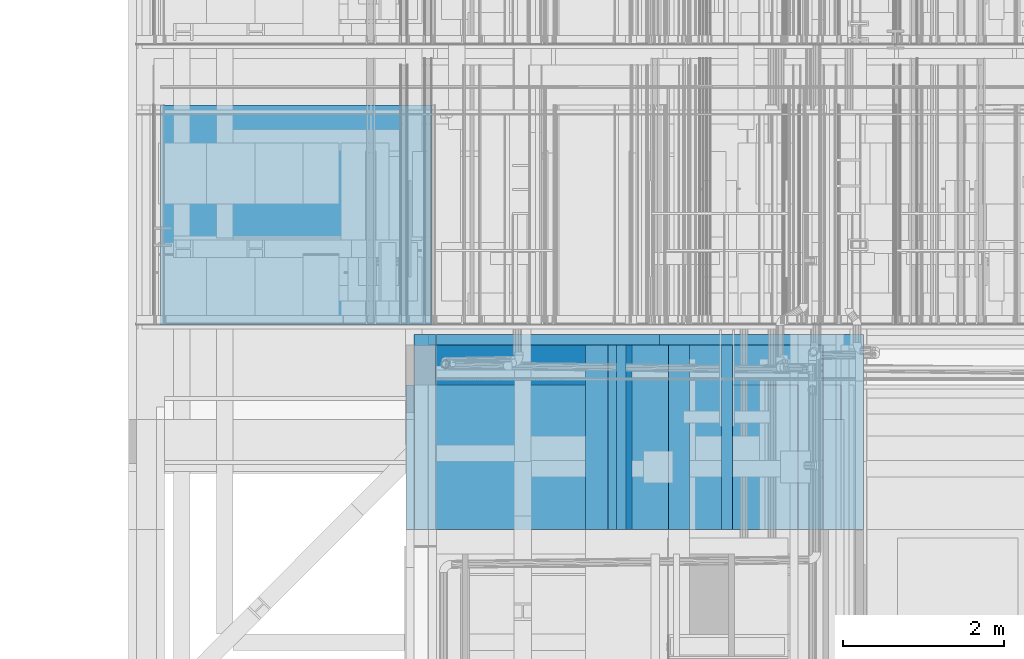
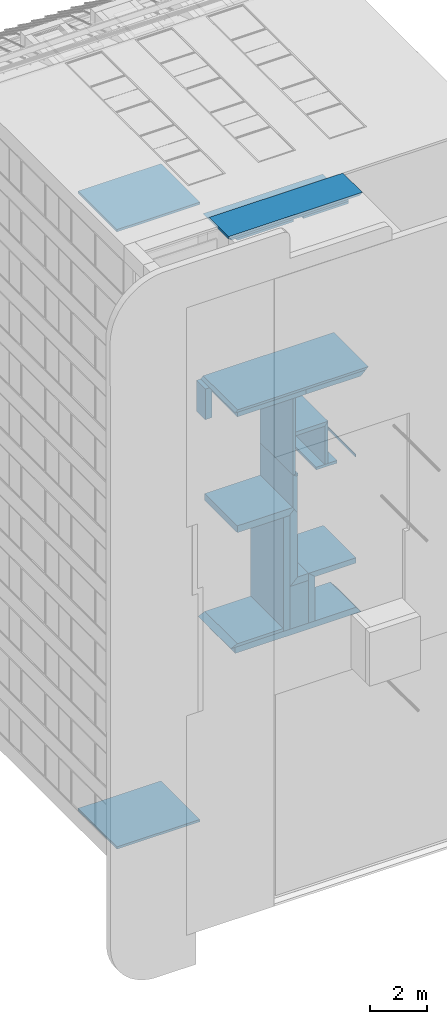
# One storey, part 10 of 583: 24 walls, 2 openings.
"""IFC2X3 building model written with IfcOpenShell, lengths in metres."""

import ifcopenshell
import ifcopenshell.guid

model = None  # the IFC model being written
_history = None  # IfcOwnerHistory: only IFC2X3 demands one
_inside = {}  # id of a spatial element -> (the spatial element, [elements in it])
_under = {}  # id of a project, library or spatial element -> (it, [spatial elements below it])
_declared = {}  # id of a project -> (the project, [libraries it declares])
_typed = {}  # id of a type object -> (the type object, [elements of that type])
_made_of = {}  # id of a material, layer set ... -> (it, [elements and type objects made of it])


def new_model(schema):
    """Start an empty IFC model of exactly this schema.

    Asked for "IFC4X3", IfcOpenShell would pick the latest addendum, in which some entities
    have other attributes; the version numbers below select the first issue.
    IFC2X3 requires an IfcOwnerHistory on every rooted entity: one is made here for all.
    """
    global model, _history
    if schema == "IFC4X3":
        model = ifcopenshell.file(schema_version=(4, 3, 0, 0))
    else:
        model = ifcopenshell.file(schema=schema)
    _inside.clear()
    _under.clear()
    _declared.clear()
    _typed.clear()
    _made_of.clear()
    _history = None
    if model.schema == "IFC2X3":
        org = make("IfcOrganization", Name="unknown")
        user = make(
            "IfcPersonAndOrganization",
            ThePerson=make("IfcPerson", FamilyName="unknown"),
            TheOrganization=org,
        )
        app = make(
            "IfcApplication",
            ApplicationDeveloper=org,
            Version="unknown",
            ApplicationFullName="unknown",
            ApplicationIdentifier="unknown",
        )
        _history = make(
            "IfcOwnerHistory",
            OwningUser=user,
            OwningApplication=app,
            ChangeAction="ADDED",
            CreationDate=0,
        )
    return model


def make(cls, **values):
    """One entity of the class cls with the attributes given. An attribute that is None is left unset."""
    return model.create_entity(
        cls, **{name: value for name, value in values.items() if value is not None}
    )


def entity(cls, *values):
    """Any entity or typed value of the class cls, its attributes in the order of the schema. None: left unset."""
    e = model.create_entity(cls)
    for i, value in enumerate(values):
        if value is not None:
            e[i] = value
    return e


def rooted(cls, **values):
    """An entity with a GlobalId (a new one), such as an element, a storey or a relation."""
    return make(cls, GlobalId=ifcopenshell.guid.new(), OwnerHistory=_history, **values)


def si_unit(unit_type, name, prefix=None):
    """IfcSIUnit, for example si_unit("LENGTHUNIT", "METRE", prefix="MILLI")."""
    return make("IfcSIUnit", UnitType=unit_type, Prefix=prefix, Name=name)


def converted_unit(unit_type, name, factor, base, dimensions=None, offset=None):
    """IfcConversionBasedUnit, such as the inch: factor (a typed value) times the base unit."""
    return make(
        "IfcConversionBasedUnit"
        if offset is None
        else "IfcConversionBasedUnitWithOffset",
        ConversionOffset=offset,
        Dimensions=None
        if dimensions is None
        else entity("IfcDimensionalExponents", *dimensions),
        UnitType=unit_type,
        Name=name,
        ConversionFactor=make(
            "IfcMeasureWithUnit", ValueComponent=factor, UnitComponent=base
        ),
    )


def derived_unit(unit_type, elements):
    """IfcDerivedUnit: a product of units, each with its exponent."""
    return make(
        "IfcDerivedUnit",
        Elements=[
            make("IfcDerivedUnitElement", Unit=unit, Exponent=power)
            for unit, power in elements
        ],
        UnitType=unit_type,
    )


def money_unit(currency):
    """IfcMonetaryUnit."""
    return make("IfcMonetaryUnit", Currency=currency)


def assignment(units):
    """IfcUnitAssignment: the units of a project."""
    return None if units is None else make("IfcUnitAssignment", Units=units)


def point(xyz):
    """IfcCartesianPoint."""
    return None if xyz is None else make("IfcCartesianPoint", Coordinates=xyz)


def direction(xyz):
    """IfcDirection."""
    return None if xyz is None else make("IfcDirection", DirectionRatios=xyz)


def frame(location, z_axis=None, x_axis=None):
    """IfcAxis2Placement3D, a coordinate frame: its origin and axes. An axis left out is left unset."""
    return make(
        "IfcAxis2Placement3D",
        Location=point(location),
        Axis=direction(z_axis),
        RefDirection=direction(x_axis),
    )


def frame_2d(location, x_axis=None):
    """IfcAxis2Placement2D, a coordinate frame in the plane: its origin and x axis."""
    return make(
        "IfcAxis2Placement2D", Location=point(location), RefDirection=direction(x_axis)
    )


def origin_with_axes():
    """The frame at (0, 0, 0) with the z axis (0, 0, 1) and the x axis (1, 0, 0) written out."""
    return frame((0.0, 0.0, 0.0), z_axis=(0.0, 0.0, 1.0), x_axis=(1.0, 0.0, 0.0))


def place(relative_to, where):
    """IfcLocalPlacement: puts the frame where relative to a parent placement (None: the world)."""
    return make(
        "IfcLocalPlacement", PlacementRelTo=relative_to, RelativePlacement=where
    )


def context(
    kind, dimensions, precision=None, world=None, true_north=None, identifier=None
):
    """IfcGeometricRepresentationContext, for example the 3D "Model" context."""
    return make(
        "IfcGeometricRepresentationContext",
        ContextIdentifier=identifier,
        ContextType=kind,
        CoordinateSpaceDimension=dimensions,
        Precision=precision,
        WorldCoordinateSystem=world,
        TrueNorth=true_north,
    )


def subcontext(parent, identifier, kind, view, scale=None):
    """IfcGeometricRepresentationSubContext, for example "Body" below "Model"."""
    return make(
        "IfcGeometricRepresentationSubContext",
        ContextIdentifier=identifier,
        ContextType=kind,
        ParentContext=parent,
        TargetScale=scale,
        TargetView=view,
    )


def project(units=None, contexts=None):
    """IfcProject with its units and contexts."""
    return rooted(
        "IfcProject",
        Name="project",
        RepresentationContexts=contexts,
        UnitsInContext=assignment(units),
    )


def spatial(cls, under=None, at=None, **own):
    """A site, building, storey or space (cls), placed at a placement, below another one or the project."""
    s = rooted(cls, ObjectPlacement=at, **own)
    if under is not None:
        _under.setdefault(under.id(), (under, []))[1].append(s)
    return s


def polyline(points):
    """IfcPolyline through the points."""
    return make("IfcPolyline", Points=[point(p) for p in points])


def profile(cls, at=None, kind="AREA", **sizes):
    """A parametric profile (cls). Its sizes go by their IFC names, for example OverallWidth=200.0."""
    return make(cls, ProfileType=kind, Position=at, **sizes)


def rectangle(**sizes):
    """IfcRectangleProfileDef."""
    return profile("IfcRectangleProfileDef", **sizes)


def outline(outer, holes=None, kind="AREA"):
    """IfcArbitraryClosedProfileDef: a profile drawn as a closed curve; with holes, ...WithVoids."""
    if holes is None:
        return make("IfcArbitraryClosedProfileDef", ProfileType=kind, OuterCurve=outer)
    return make(
        "IfcArbitraryProfileDefWithVoids",
        ProfileType=kind,
        OuterCurve=outer,
        InnerCurves=holes,
    )


def extrude(swept, where, along, depth):
    """IfcExtrudedAreaSolid: the profile swept, set in the frame where, extruded along a direction by depth."""
    return make(
        "IfcExtrudedAreaSolid",
        SweptArea=swept,
        Position=where,
        ExtrudedDirection=direction(along),
        Depth=depth,
    )


def shape(context_of_items, identifier, shape_type, items):
    """IfcShapeRepresentation: the items that make up one representation, for example the "Body"."""
    return make(
        "IfcShapeRepresentation",
        ContextOfItems=context_of_items,
        RepresentationIdentifier=identifier,
        RepresentationType=shape_type,
        Items=items,
    )


def material(Name=None, Category=None):
    """IfcMaterial."""
    return make("IfcMaterial", Name=Name, Category=Category)


def made_of(thing, what):
    """Note that an element or type object is made of a material, layer set ...; save() writes the relation."""
    if what is not None:
        _made_of.setdefault(what.id(), (what, []))[1].append(thing)
    return thing


def type_object(cls, material=None, **own):
    """A type object (cls), such as IfcWallType, which elements share."""
    return made_of(rooted(cls, **own), material)


def element(
    cls,
    number,
    at=None,
    inside=None,
    cuts=None,
    type_object=None,
    material=None,
    context=None,
    identifier="Body",
    shape_type=None,
    held_by="IfcProductDefinitionShape",
    body=None,
    shapes=None,
    **own,
):
    """One element of the class cls, such as IfcWall. Its Tag is "e" and its number.

    at: its placement. inside: the storey or other place that contains it. cuts: it is an
    opening in that element (IfcRelVoidsElement). A single representation is given by context,
    identifier, shape_type and body (its items); several are given by shapes. held_by: the class
    of the entity that holds the representations. save() writes the other relations.
    """
    e = rooted(cls, Tag="e%d" % number, ObjectPlacement=at, **own)
    if body is not None:
        shapes = [shape(context, identifier, shape_type, body)]
    if shapes is not None:
        e.Representation = make(held_by, Representations=shapes)
    if inside is not None:
        _inside.setdefault(inside.id(), (inside, []))[1].append(e)
    if cuts is not None:
        rooted(
            "IfcRelVoidsElement", RelatingBuildingElement=cuts, RelatedOpeningElement=e
        )
    if type_object is not None:
        _typed.setdefault(type_object.id(), (type_object, []))[1].append(e)
    return made_of(e, material)


def aggregate(whole, parts):
    """IfcRelAggregates: a whole, such as a stair, and the parts it consists of."""
    return rooted("IfcRelAggregates", RelatingObject=whole, RelatedObjects=parts)


def save(model, path):
    """Write the relations noted so far, then the file.

    IfcRelAggregates (storeys below a building ...), IfcRelContainedInSpatialStructure (elements
    in a storey), IfcRelDefinesByType, IfcRelAssociatesMaterial and IfcRelDeclares: one each for
    every whole, place, type object, material and project.
    """
    for whole, parts in _under.values():
        aggregate(whole, parts)
    for where, things in _inside.values():
        rooted(
            "IfcRelContainedInSpatialStructure",
            RelatedElements=things,
            RelatingStructure=where,
        )
    for kind, things in _typed.values():
        rooted("IfcRelDefinesByType", RelatedObjects=things, RelatingType=kind)
    for what, things in _made_of.values():
        rooted("IfcRelAssociatesMaterial", RelatedObjects=things, RelatingMaterial=what)
    for by, libraries in _declared.values():
        rooted("IfcRelDeclares", RelatingContext=by, RelatedDefinitions=libraries)
    model.write(path)


model = new_model("IFC2X3")

# Units and contexts
model_context = context("Model", 3, precision=1e-05, world=origin_with_axes(), true_north=direction((0.0, 1.0)))
body_context = subcontext(model_context, "Body", "Model", "MODEL_VIEW", scale=1.0)
ifc_project = project(units=[si_unit("LENGTHUNIT", "METRE"), si_unit("AREAUNIT", "SQUARE_METRE"), si_unit("VOLUMEUNIT", "CUBIC_METRE"), si_unit("ABSORBEDDOSEUNIT", "GRAY"), si_unit("AMOUNTOFSUBSTANCEUNIT", "MOLE"), si_unit("DOSEEQUIVALENTUNIT", "SIEVERT"), si_unit("ELECTRICCAPACITANCEUNIT", "FARAD"), si_unit("ELECTRICCHARGEUNIT", "COULOMB"), si_unit("ELECTRICCONDUCTANCEUNIT", "SIEMENS"), si_unit("ELECTRICCURRENTUNIT", "AMPERE"), si_unit("ELECTRICRESISTANCEUNIT", "OHM"), si_unit("ELECTRICVOLTAGEUNIT", "VOLT"), si_unit("ENERGYUNIT", "JOULE"), si_unit("FORCEUNIT", "NEWTON"), si_unit("FREQUENCYUNIT", "HERTZ"), si_unit("ILLUMINANCEUNIT", "LUX"), si_unit("INDUCTANCEUNIT", "HENRY"), si_unit("LUMINOUSFLUXUNIT", "LUMEN"), si_unit("LUMINOUSINTENSITYUNIT", "CANDELA"), si_unit("MAGNETICFLUXDENSITYUNIT", "TESLA"), si_unit("MAGNETICFLUXUNIT", "WEBER"), si_unit("MASSUNIT", "GRAM"), converted_unit("PLANEANGLEUNIT", "degree", entity("IfcReal", 0.0174532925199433), si_unit("PLANEANGLEUNIT", "RADIAN"), dimensions=[0, 0, 0, 0, 0, 0, 0]), si_unit("POWERUNIT", "WATT"), si_unit("PRESSUREUNIT", "PASCAL"), si_unit("RADIOACTIVITYUNIT", "BECQUEREL"), si_unit("SOLIDANGLEUNIT", "STERADIAN"), si_unit("THERMODYNAMICTEMPERATUREUNIT", "KELVIN"), si_unit("TIMEUNIT", "SECOND"), derived_unit("ACCELERATIONUNIT", [(si_unit("LENGTHUNIT", "METRE"), 1), (si_unit("TIMEUNIT", "SECOND"), -2)]), derived_unit("ANGULARVELOCITYUNIT", [(converted_unit("PLANEANGLEUNIT", "degree", entity("IfcReal", 0.0174532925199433), si_unit("PLANEANGLEUNIT", "RADIAN"), dimensions=[0, 0, 0, 0, 0, 0, 0]), 1), (si_unit("TIMEUNIT", "SECOND"), -1)]), derived_unit("CURVATUREUNIT", [(converted_unit("PLANEANGLEUNIT", "degree", entity("IfcReal", 0.0174532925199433), si_unit("PLANEANGLEUNIT", "RADIAN"), dimensions=[0, 0, 0, 0, 0, 0, 0]), 1), (si_unit("LENGTHUNIT", "METRE"), -1)]), derived_unit("DYNAMICVISCOSITYUNIT", [(si_unit("PRESSUREUNIT", "PASCAL"), 1), (si_unit("TIMEUNIT", "SECOND"), 1)]), derived_unit("HEATFLUXDENSITYUNIT", [(si_unit("POWERUNIT", "WATT"), 1), (si_unit("LENGTHUNIT", "METRE"), -2)]), derived_unit("HEATINGVALUEUNIT", [(si_unit("ENERGYUNIT", "JOULE"), 1), (si_unit("MASSUNIT", "GRAM"), -1)]), derived_unit("INTEGERCOUNTRATEUNIT", [(si_unit("TIMEUNIT", "SECOND"), -1)]), derived_unit("IONCONCENTRATIONUNIT", [(si_unit("MASSUNIT", "GRAM"), 1), (si_unit("VOLUMEUNIT", "CUBIC_METRE"), -1)]), derived_unit("ISOTHERMALMOISTURECAPACITYUNIT", [(si_unit("VOLUMEUNIT", "CUBIC_METRE"), 1), (si_unit("MASSUNIT", "GRAM"), -1)]), derived_unit("KINEMATICVISCOSITYUNIT", [(si_unit("AREAUNIT", "SQUARE_METRE"), 1), (si_unit("TIMEUNIT", "SECOND"), -1)]), derived_unit("LINEARFORCEUNIT", [(si_unit("FORCEUNIT", "NEWTON"), 1), (si_unit("LENGTHUNIT", "METRE"), -1)]), derived_unit("LINEARMOMENTUNIT", [(si_unit("FORCEUNIT", "NEWTON"), 1), (si_unit("LENGTHUNIT", "METRE"), -1)]), derived_unit("LINEARSTIFFNESSUNIT", [(si_unit("FORCEUNIT", "NEWTON"), 1), (si_unit("LENGTHUNIT", "METRE"), -1)]), derived_unit("LINEARVELOCITYUNIT", [(si_unit("LENGTHUNIT", "METRE"), 1), (si_unit("TIMEUNIT", "SECOND"), -1)]), derived_unit("LUMINOUSINTENSITYDISTRIBUTIONUNIT", [(si_unit("LUMINOUSINTENSITYUNIT", "CANDELA"), 1), (si_unit("LUMINOUSFLUXUNIT", "LUMEN"), -1)]), derived_unit("MASSDENSITYUNIT", [(si_unit("MASSUNIT", "GRAM"), 1), (si_unit("VOLUMEUNIT", "CUBIC_METRE"), -1)]), derived_unit("MASSFLOWRATEUNIT", [(si_unit("MASSUNIT", "GRAM"), 1), (si_unit("TIMEUNIT", "SECOND"), -1)]), derived_unit("MASSPERLENGTHUNIT", [(si_unit("MASSUNIT", "GRAM"), 1), (si_unit("LENGTHUNIT", "METRE"), -1)]), derived_unit("MODULUSOFELASTICITYUNIT", [(si_unit("FORCEUNIT", "NEWTON"), 1), (si_unit("AREAUNIT", "SQUARE_METRE"), -1)]), derived_unit("MODULUSOFLINEARSUBGRADEREACTIONUNIT", [(si_unit("FORCEUNIT", "NEWTON"), 1), (si_unit("LENGTHUNIT", "METRE"), -2)]), derived_unit("MODULUSOFROTATIONALSUBGRADEREACTIONUNIT", [(si_unit("FORCEUNIT", "NEWTON"), 1), (si_unit("LENGTHUNIT", "METRE"), 1)]), derived_unit("MODULUSOFSUBGRADEREACTIONUNIT", [(si_unit("FORCEUNIT", "NEWTON"), 1), (si_unit("VOLUMEUNIT", "CUBIC_METRE"), -1)]), derived_unit("MOISTUREDIFFUSIVITYUNIT", [(si_unit("VOLUMEUNIT", "CUBIC_METRE"), 1), (si_unit("TIMEUNIT", "SECOND"), -1)]), derived_unit("MOLECULARWEIGHTUNIT", [(si_unit("MASSUNIT", "GRAM"), 1), (si_unit("AMOUNTOFSUBSTANCEUNIT", "MOLE"), -1)]), derived_unit("PLANARFORCEUNIT", [(si_unit("FORCEUNIT", "NEWTON"), 1), (si_unit("LENGTHUNIT", "METRE"), -2)]), derived_unit("ROTATIONALFREQUENCYUNIT", [(si_unit("TIMEUNIT", "SECOND"), -1)]), derived_unit("ROTATIONALMASSUNIT", [(si_unit("MASSUNIT", "GRAM"), 1), (si_unit("LENGTHUNIT", "METRE"), 2)]), derived_unit("ROTATIONALSTIFFNESSUNIT", [(si_unit("FORCEUNIT", "NEWTON"), 1), (si_unit("LENGTHUNIT", "METRE"), 1), (converted_unit("PLANEANGLEUNIT", "degree", entity("IfcReal", 0.0174532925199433), si_unit("PLANEANGLEUNIT", "RADIAN"), dimensions=[0, 0, 0, 0, 0, 0, 0]), -1)]), derived_unit("SECTIONAREAINTEGRALUNIT", [(si_unit("LENGTHUNIT", "METRE"), 5)]), derived_unit("SECTIONMODULUSUNIT", [(si_unit("LENGTHUNIT", "METRE"), 3)]), derived_unit("SHEARMODULUSUNIT", [(si_unit("FORCEUNIT", "NEWTON"), 1), (si_unit("AREAUNIT", "SQUARE_METRE"), -1)]), derived_unit("SOUNDPOWERUNIT", [(si_unit("ENERGYUNIT", "JOULE"), 1), (si_unit("TIMEUNIT", "SECOND"), -1)]), derived_unit("SPECIFICHEATCAPACITYUNIT", [(si_unit("FORCEUNIT", "NEWTON"), 1), (si_unit("MASSUNIT", "GRAM"), -1), (si_unit("THERMODYNAMICTEMPERATUREUNIT", "KELVIN"), -1)]), derived_unit("TEMPERATUREGRADIENTUNIT", [(si_unit("THERMODYNAMICTEMPERATUREUNIT", "KELVIN"), 1), (si_unit("LENGTHUNIT", "METRE"), -1)]), derived_unit("THERMALADMITTANCEUNIT", [(si_unit("POWERUNIT", "WATT"), 1), (si_unit("AREAUNIT", "SQUARE_METRE"), -1), (si_unit("THERMODYNAMICTEMPERATUREUNIT", "KELVIN"), -1)]), derived_unit("THERMALCONDUCTANCEUNIT", [(si_unit("POWERUNIT", "WATT"), 1), (si_unit("LENGTHUNIT", "METRE"), -1), (si_unit("THERMODYNAMICTEMPERATUREUNIT", "KELVIN"), -1)]), derived_unit("THERMALEXPANSIONCOEFFICIENTUNIT", [(si_unit("THERMODYNAMICTEMPERATUREUNIT", "KELVIN"), -1)]), derived_unit("THERMALRESISTANCEUNIT", [(si_unit("AREAUNIT", "SQUARE_METRE"), 1), (si_unit("POWERUNIT", "WATT"), -1)]), derived_unit("THERMALTRANSMITTANCEUNIT", [(si_unit("POWERUNIT", "WATT"), 1), (si_unit("AREAUNIT", "SQUARE_METRE"), -1), (si_unit("THERMODYNAMICTEMPERATUREUNIT", "KELVIN"), -1)]), derived_unit("TORQUEUNIT", [(si_unit("FORCEUNIT", "NEWTON"), 1), (si_unit("LENGTHUNIT", "METRE"), 1)]), derived_unit("VAPORPERMEABILITYUNIT", [(si_unit("MASSUNIT", "GRAM"), 1), (si_unit("TIMEUNIT", "SECOND"), -1)]), derived_unit("VOLUMETRICFLOWRATEUNIT", [(si_unit("VOLUMEUNIT", "CUBIC_METRE"), 1), (si_unit("TIMEUNIT", "SECOND"), -1)]), derived_unit("WARPINGCONSTANTUNIT", [(si_unit("LENGTHUNIT", "METRE"), 6)]), derived_unit("WARPINGMOMENTUNIT", [(si_unit("FORCEUNIT", "NEWTON"), 1), (si_unit("LENGTHUNIT", "METRE"), 2)]), money_unit("GBP")], contexts=[model_context])

# Site, building, storey
site_placement = place(None, origin_with_axes())
site = spatial("IfcSite", under=ifc_project, at=site_placement, Name="Site", CompositionType="ELEMENT")
building_placement = place(site_placement, origin_with_axes())
building = spatial("IfcBuilding", under=site, at=building_placement, Name="Building01", CompositionType="ELEMENT")
storey_placement = place(building_placement, frame((0.0, 0.0, 20.78), z_axis=(0.0, 0.0, 1.0), x_axis=(1.0, 0.0, 0.0)))
storey = spatial("IfcBuildingStorey", under=building, at=storey_placement, Name="RL", CompositionType="ELEMENT", Elevation=20.78)

# Walls
ifc_material_1 = material(Name="A_BSUK_WallsExternal_Brick")
wall_type_1 = type_object("IfcWallType", Name="A-Walls-ExternalBrick", PredefinedType="NOTDEFINED")
wall_1_placement = place(storey_placement, frame((3.459332, 2.6, 6.201285), z_axis=(0.0, 1.0, 0.0), x_axis=(1.0, 0.0, 0.0)))
element("IfcWall", 1, at=wall_1_placement, inside=storey, type_object=wall_type_1, material=ifc_material_1, Name="A-Walls-ExternalBrick", ObjectType="A-Walls-ExternalBrick", context=body_context, shape_type="SweptSolid", body=[
    extrude(outline(polyline([(5.350199, 0.1), (0.0, 0.1), (0.0, 0.0), (5.450199, 0.0), (5.350199, 0.1)])), origin_with_axes(), (0.0, 0.0, 1.0), 1.37),
])
ifc_material_2 = material(Name="A_BSUK_WallsExternal_Block")
wall_type_2 = type_object("IfcWallType", Name="A-Walls-ExternalBlock", PredefinedType="NOTDEFINED")
wall_2_placement = place(storey_placement, frame((3.459332, 2.6, 6.101285), z_axis=(0.0, 1.0, 0.0), x_axis=(1.0, 0.0, 0.0)))
element("IfcWall", 2, at=wall_2_placement, inside=storey, type_object=wall_type_2, material=ifc_material_2, Name="A-Walls-ExternalBlock", ObjectType="A-Walls-ExternalBlock", context=body_context, shape_type="SweptSolid", body=[
    extrude(outline(polyline([(0.1, 0.086), (0.0, 0.0), (4.878426, 0.0), (4.878426, 0.086), (0.1, 0.086)])), origin_with_axes(), (0.0, 0.0, 1.0), 1.8),
])
wall_3_placement = place(storey_placement, frame((3.823962, 2.6, -1.477228), z_axis=(0.0, 1.0, 0.0), x_axis=(1.0, 0.0, 0.0)))
element("IfcWall", 3, at=wall_3_placement, inside=storey, type_object=wall_type_2, material=ifc_material_2, Name="A-Walls-ExternalBlock", ObjectType="A-Walls-ExternalBlock", context=body_context, shape_type="SweptSolid", body=[
    extrude(rectangle(XDim=0.199996, YDim=2.786976, at=frame_2d((1.393488, 0.099998), x_axis=(0.0, -1.0))), origin_with_axes(), (0.0, 0.0, 1.0), 2.43),
])
wall_4_placement = place(storey_placement, frame((6.610938, 2.6, -1.477033), z_axis=(0.0, 1.0, 0.0), x_axis=(1.0, 0.0, 0.0)))
element("IfcWall", 4, at=wall_4_placement, inside=storey, type_object=wall_type_2, material=ifc_material_2, Name="A-Walls-ExternalBlock", ObjectType="A-Walls-ExternalBlock", context=body_context, shape_type="SweptSolid", body=[
    extrude(outline(polyline([(2.241917, 0.200191), (0.0, 0.200191), (0.0, 0.0), (2.442209, 0.0), (2.241917, 0.200191)])), origin_with_axes(), (0.0, 0.0, 1.0), 2.43),
])
wall_5_placement = place(storey_placement, frame((3.733332, 2.6, -11.550001), z_axis=(0.0, 1.0, 0.0), x_axis=(1.0, 0.0, 0.0)))
element("IfcWall", 5, at=wall_5_placement, inside=storey, type_object=wall_type_2, material=ifc_material_2, Name="A-Walls-ExternalBlock", ObjectType="A-Walls-ExternalBlock", context=body_context, shape_type="SweptSolid", body=[
    extrude(outline(polyline([(5.138078, 0.264901), (0.0, 0.264901), (0.0, 0.0), (4.914078, 0.0), (5.138078, 0.264901)])), origin_with_axes(), (0.0, 0.0, 1.0), 1.8),
])

# Wall, openings
wall_6_placement = place(storey_placement, frame((8.64741, 2.6, -5.081735), z_axis=(0.0, 1.0, 0.0), x_axis=(-1.0, 0.0, 0.0)))
wall_6 = element("IfcWall", 6, at=wall_6_placement, inside=storey, type_object=wall_type_2, material=ifc_material_2, Name="A-Walls-ExternalBlock", ObjectType="A-Walls-ExternalBlock", context=body_context, shape_type="SweptSolid", body=[
    extrude(outline(polyline([(2.570426, 0.118), (0.0, 0.118), (0.0, 0.0), (2.376426, 0.0), (2.570426, 0.118)])), origin_with_axes(), (0.0, 0.0, 1.0), 2.3),
])
opening_1_placement = place(wall_6_placement, frame((1.615426, 0.0, 0.0), z_axis=(0.0, 0.0, 1.0), x_axis=(1.0, 0.0, 0.0)))
element("IfcOpeningElement", 7, at=opening_1_placement, cuts=wall_6, Name="Opening", ObjectType="Opening", context=body_context, shape_type="SweptSolid", body=[
    extrude(rectangle(XDim=2.1, YDim=0.734, at=frame_2d((-0.367, 1.05), x_axis=(0.0, -1.0))), frame((0.0, 0.0, 0.0), z_axis=(0.0, 1.0, 0.0), x_axis=(-1.0, 0.0, 0.0)), (0.0, 0.0, 1.0), 0.118),
])
opening_2_placement = place(wall_6_placement, frame((0.027, 0.0, 0.0), z_axis=(0.0, 0.0, 1.0), x_axis=(1.0, 0.0, 0.0)))
element("IfcOpeningElement", 8, at=opening_2_placement, cuts=wall_6, Name="Opening", ObjectType="Opening", context=body_context, shape_type="SweptSolid", body=[
    extrude(rectangle(XDim=2.1, YDim=0.734, at=frame_2d((-0.367, 1.05), x_axis=(0.0, -1.0))), frame((0.0, 0.0, 0.0), z_axis=(0.0, 1.0, 0.0), x_axis=(-1.0, 0.0, 0.0)), (0.0, 0.0, 1.0), 0.118),
])

# Walls
wall_7_placement = place(storey_placement, frame((6.076984, 2.6, -6.358566), z_axis=(0.0, 1.0, 0.0), x_axis=(0.0, 0.0, 1.0)))
element("IfcWall", 9, at=wall_7_placement, inside=storey, type_object=wall_type_2, material=ifc_material_2, Name="A-Walls-ExternalBlock", ObjectType="A-Walls-ExternalBlock", context=body_context, shape_type="SweptSolid", body=[
    extrude(outline(polyline([(1.276831, 0.194), (-0.3, 0.194), (0.0, 0.0), (1.394831, 0.0), (1.276831, 0.194)])), origin_with_axes(), (0.0, 0.0, 1.0), 2.3),
])
wall_8_placement = place(storey_placement, frame((6.076984, 2.6, -4.963735), z_axis=(0.0, 1.0, 0.0), x_axis=(0.0, 0.0, 1.0)))
element("IfcWall", 10, at=wall_8_placement, inside=storey, type_object=wall_type_2, material=ifc_material_2, Name="A-Walls-ExternalBlock", ObjectType="A-Walls-ExternalBlock", context=body_context, shape_type="SweptSolid", body=[
    extrude(rectangle(XDim=3.286511, YDim=0.12, at=frame_2d((1.643255, 0.06), x_axis=(-1.0, 0.0))), origin_with_axes(), (0.0, 0.0, 1.0), 2.3),
])
wall_9_placement = place(storey_placement, frame((6.196984, 2.6, -3.153054), z_axis=(0.0, 1.0, 0.0), x_axis=(1.0, 0.0, 0.0)))
element("IfcWall", 11, at=wall_9_placement, inside=storey, type_object=wall_type_2, material=ifc_material_2, Name="A-Walls-ExternalBlock", ObjectType="A-Walls-ExternalBlock", context=body_context, shape_type="SweptSolid", body=[
    extrude(outline(polyline([(1.185935, 0.167), (0.0, 0.167), (0.0, 0.0), (1.322935, 0.0), (1.185935, 0.167)])), origin_with_axes(), (0.0, 0.0, 1.0), 2.3),
])
wall_10_placement = place(storey_placement, frame((7.519919, 2.6, -3.153054), z_axis=(0.0, 1.0, 0.0), x_axis=(0.0, 0.0, -1.0)))
element("IfcWall", 12, at=wall_10_placement, inside=storey, type_object=wall_type_2, material=ifc_material_2, Name="A-Walls-ExternalBlock", ObjectType="A-Walls-ExternalBlock", context=body_context, shape_type="SweptSolid", body=[
    extrude(outline(polyline([(1.810681, 0.137), (0.167, 0.137), (0.0, 0.0), (1.810681, 0.0), (1.810681, 0.137)])), origin_with_axes(), (0.0, 0.0, 1.0), 2.3),
])
wall_11_placement = place(storey_placement, frame((3.823962, 2.6, -6.358566), z_axis=(0.0, 1.0, 0.0), x_axis=(1.0, 0.0, 0.0)))
element("IfcWall", 13, at=wall_11_placement, inside=storey, type_object=wall_type_2, material=ifc_material_2, Name="A-Walls-ExternalBlock", ObjectType="A-Walls-ExternalBlock", context=body_context, shape_type="SweptSolid", body=[
    extrude(outline(polyline([(2.447022, 0.3), (0.0, 0.3), (0.0, 0.0), (2.253022, 0.0), (2.447022, 0.3)])), origin_with_axes(), (0.0, 0.0, 1.0), 2.3),
])
wall_12_placement = place(storey_placement, frame((6.270984, 2.6, -6.320171), z_axis=(0.0, 1.0, 0.0), x_axis=(0.0, 0.0, -1.0)))
element("IfcWall", 14, at=wall_12_placement, inside=storey, type_object=wall_type_2, material=ifc_material_2, Name="A-Walls-ExternalBlock", ObjectType="A-Walls-ExternalBlock", context=body_context, shape_type="SweptSolid", body=[
    extrude(outline(polyline([(3.397634, 0.3), (0.3, 0.3), (0.0, 0.0), (3.097634, 0.0), (3.397634, 0.3)])), origin_with_axes(), (0.0, 0.0, 1.0), 2.3),
])
wall_13_placement = place(storey_placement, frame((6.270984, 2.6, -9.417805), z_axis=(0.0, 1.0, 0.0), x_axis=(1.0, 0.0, 0.0)))
element("IfcWall", 15, at=wall_13_placement, inside=storey, type_object=wall_type_2, material=ifc_material_2, Name="A-Walls-ExternalBlock", ObjectType="A-Walls-ExternalBlock", context=body_context, shape_type="SweptSolid", body=[
    extrude(outline(polyline([(0.454777, 0.3), (-0.3, 0.3), (0.0, 0.0), (0.454777, 0.0), (0.454777, 0.3)])), origin_with_axes(), (0.0, 0.0, 1.0), 2.3),
])
wall_14_placement = place(storey_placement, frame((5.970984, 2.6, -6.658566), z_axis=(0.0, 1.0, 0.0), x_axis=(0.0, 0.0, -1.0)))
element("IfcWall", 16, at=wall_14_placement, inside=storey, type_object=wall_type_2, material=ifc_material_2, Name="A-Walls-ExternalBlock", ObjectType="A-Walls-ExternalBlock", context=body_context, shape_type="SweptSolid", body=[
    extrude(rectangle(XDim=4.891435, YDim=0.277934, at=frame_2d((2.445717, 0.138967), x_axis=(-1.0, 0.0))), origin_with_axes(), (0.0, 0.0, 1.0), 2.3),
])
wall_15_placement = place(storey_placement, frame((6.725761, 2.6, -9.717805), z_axis=(0.0, 1.0, 0.0), x_axis=(0.0, 0.0, -1.0)))
element("IfcWall", 17, at=wall_15_placement, inside=storey, type_object=wall_type_2, material=ifc_material_2, Name="A-Walls-ExternalBlock", ObjectType="A-Walls-ExternalBlock", context=body_context, shape_type="SweptSolid", body=[
    extrude(rectangle(XDim=1.832195, YDim=0.754777, at=frame_2d((0.916098, 0.377389), x_axis=(-1.0, 0.0))), origin_with_axes(), (0.0, 0.0, 1.0), 2.3),
])
wall_16_placement = place(storey_placement, frame((3.833852, 2.6, -1.377224), z_axis=(0.0, 1.0, 0.0), x_axis=(1.0, 0.0, 3.756e-05)))
element("IfcWall", 18, at=wall_16_placement, inside=storey, type_object=wall_type_2, material=ifc_material_2, Name="A-Walls-ExternalBlock", ObjectType="A-Walls-ExternalBlock", context=body_context, shape_type="SweptSolid", body=[
    extrude(outline(polyline([(5.219195, 0.1), (-0.1, 0.1), (0.0, 0.0), (5.319202, 0.0), (5.219195, 0.1)])), origin_with_axes(), (0.0, 0.0, 1.0), 2.43),
])
wall_17_placement = place(storey_placement, frame((6.112111, 2.6, 5.915149), z_axis=(0.0, 1.0, 0.0), x_axis=(-1.0, 0.0, -3.756e-05)))
element("IfcWall", 19, at=wall_17_placement, inside=storey, type_object=wall_type_2, material=ifc_material_2, Name="A-Walls-ExternalBlock", ObjectType="A-Walls-ExternalBlock", context=body_context, shape_type="SweptSolid", body=[
    extrude(outline(polyline([(2.378533, 0.1), (0.0, 0.1), (0.0, 0.0), (2.278533, 0.0), (2.378533, 0.1)])), origin_with_axes(), (0.0, 0.0, 1.0), 1.8),
])
wall_18_placement = place(storey_placement, frame((8.337758, 2.6, 5.915233), z_axis=(0.0, 1.0, 0.0), x_axis=(-1.0, 0.0, -3.756e-05)))
element("IfcWall", 20, at=wall_18_placement, inside=storey, type_object=wall_type_2, material=ifc_material_2, Name="A-Walls-ExternalBlock", ObjectType="A-Walls-ExternalBlock", context=body_context, shape_type="SweptSolid", body=[
    extrude(outline(polyline([(1.825996, 0.1), (-4e-06, 0.1), (0.0, 0.0), (1.826, 0.0), (1.825996, 0.1)])), origin_with_axes(), (0.0, 0.0, 1.0), 1.8),
])
wall_19_placement = place(storey_placement, frame((3.558962, 4.4, -2.8), z_axis=(0.0, 1.0, 0.0), x_axis=(0.0, 0.0, 1.0)))
element("IfcWall", 21, at=wall_19_placement, inside=storey, type_object=wall_type_2, material=ifc_material_2, Name="A-Walls-ExternalBlock", ObjectType="A-Walls-ExternalBlock", context=body_context, shape_type="SweptSolid", body=[
    extrude(rectangle(XDim=0.265, YDim=1.322772, at=frame_2d((0.661386, 0.1325), x_axis=(0.0, -1.0))), origin_with_axes(), (0.0, 0.0, 1.0), 0.63),
])
wall_20_placement = place(storey_placement, frame((3.823962, 2.6, -11.425901), z_axis=(0.0, 1.0, 0.0), x_axis=(1.0, 0.0, 0.0)))
element("IfcWall", 22, at=wall_20_placement, inside=storey, type_object=wall_type_2, material=ifc_material_2, Name="A-Walls-ExternalBlock", ObjectType="A-Walls-ExternalBlock", context=body_context, shape_type="SweptSolid", body=[
    extrude(outline(polyline([(2.9018, 0.1241), (-0.265, 0.1241), (0.0, 0.0), (2.9018, 0.0), (2.9018, 0.1241)])), origin_with_axes(), (0.0, 0.0, 1.0), 2.3),
])
for number, where, z_axis, x_axis, name in (
    (23, (3.77418, 5.15, -20.61), (0.0, 1.0, 0.0), (-1.0, 0.0, 0.0), "A-Walls-ExternalBlock"),
    (24, (3.77418, 5.15, 5.93), (0.0, 1.0, 0.0), (-1.0, 0.0, 0.0), "A-Walls-ExternalBlock"),
):
    element("IfcWall", number, at=place(storey_placement, frame(where, z_axis=z_axis, x_axis=x_axis)), inside=storey, type_object=wall_type_2, material=ifc_material_2, Name=name, ObjectType="A-Walls-ExternalBlock", context=body_context, shape_type="SweptSolid", body=[
        extrude(rectangle(XDim=0.1, YDim=3.37418, at=frame_2d((1.68709, 0.05), x_axis=(0.0, -1.0))), origin_with_axes(), (0.0, 0.0, 1.0), 2.74),
    ])
ifc_material_3 = material(Name="A_BSUK_WallsInternal_Block")
wall_type_3 = type_object("IfcWallType", Name="A-Walls-InternalBlock", PredefinedType="NOTDEFINED")
wall_21_placement = place(storey_placement, frame((8.64741, 2.6, -9.649999), z_axis=(0.0, 1.0, 0.0), x_axis=(-1.0, 0.0, 0.0)))
element("IfcWall", 25, at=wall_21_placement, inside=storey, type_object=wall_type_3, material=ifc_material_3, Name="A-Walls-InternalBlock", ObjectType="A-Walls-InternalBlock", context=body_context, shape_type="SweptSolid", body=[
    extrude(outline(polyline([(1.921649, 0.232195), (0.0, 0.232195), (0.0, 0.0), (1.657649, 0.0), (1.921649, 0.232195)])), origin_with_axes(), (0.0, 0.0, 1.0), 2.3),
])
wall_22_placement = place(storey_placement, frame((6.989761, 2.6, -9.649999), z_axis=(0.0, 1.0, 0.0), x_axis=(0.0, 0.0, -1.0)))
element("IfcWall", 26, at=wall_22_placement, inside=storey, type_object=wall_type_3, material=ifc_material_3, Name="A-Walls-InternalBlock", ObjectType="A-Walls-InternalBlock", context=body_context, shape_type="SweptSolid", body=[
    extrude(outline(polyline([(1.900001, 0.264), (-0.232195, 0.264), (0.0, 0.0), (1.900001, 0.0), (1.900001, 0.264)])), origin_with_axes(), (0.0, 0.0, 1.0), 2.3),
])

save(model, "model.ifc")
